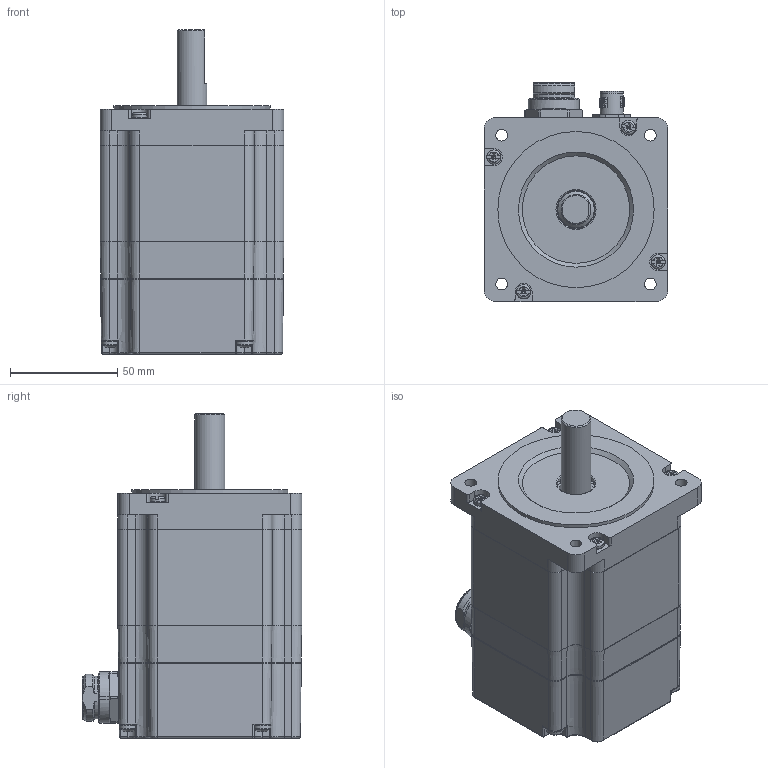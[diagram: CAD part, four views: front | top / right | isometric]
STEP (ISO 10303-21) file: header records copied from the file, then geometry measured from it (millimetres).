
FILE_DESCRIPTION (( 'STEP AP214' ), '1' );
FILE_NAME ('M86SH80B.STEP', '2022-01-31T09:21:18', ( '' ), ( '' ), 'SwSTEP 2.0', 'SolidWorks 2019', '' );
FILE_SCHEMA (( 'AUTOMOTIVE_DESIGN' ));
Length unit declared in the file: millimetre
Products named in the file (13): Terminal box 86 BAO; Vite serrapacco 80 BAO M4x72; 1523492; Cuscinetto posteriore 86 BAO; M86SH80B; Albero 86SH80 BAO; Guarnizione 86SH; Statore 86SH80 BAO; Cuscinetto anteriore 86 BAO; Vite M4 impronta a croce terminal box 86SH_DIN EN ISO 7045 - M3 x 4 - Z - 4N; Flangia P 86 BAO; Flangia  86 BAO; 7_8connector-1521452
Assembly tree (18 placements, depth 2):
  M86SH80B
    Flangia  86 BAO
    Albero 86SH80 BAO
    Cuscinetto anteriore 86 BAO
    Cuscinetto posteriore 86 BAO
    Flangia P 86 BAO
    Statore 86SH80 BAO
    Terminal box 86 BAO
    7_8connector-1521452
    Vite serrapacco 80 BAO M4x72  x4
    Vite M4 impronta a croce terminal box 86SH_DIN EN ISO 7045 - M3 x 4 - Z - 4N  x4
    Guarnizione 86SH
    1523492
Bounding box: 85.9 x 102.59 x 151.5 mm (x, y, z)
Volume: 438481.2 mm3; surface area: 167609.3 mm2
Topology: 31 solids, 31 shells, 2009 faces, 4792 edges, 2934 vertices
Faces by surface type: plane 789, cylinder 494, cone 475, bspline 171, torus 68, sphere 12
Full cylindrical faces by diameter (mm): 0.217 x1, 0.8 x8, 1.09 x8, 2 x5, 2.4 x5, 2.5 x1, 3 x5, 3.3 x12, 3.8 x4, 4 x177, 4.5 x24, 5.5 x4, 5.6 x4, 6.7 x4, 8 x5, 10.7 x1, 10.9 x1, 14 x1, 14.5 x1, 15 x2, 16.62 x1, 17 x2, 17.7 x1, 17.8 x1, 18 x1, 18.5 x2, 19.3 x2, 19.85 x2, 20.137 x2, 20.637 x1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
Entity records: 58370 total; most frequent: CARTESIAN_POINT 17066, DIRECTION 6361, ORIENTED_EDGE 6294, EDGE_CURVE 3147, AXIS2_PLACEMENT_3D 2311, VERTEX_POINT 2213, EDGE_LOOP 2046, VECTOR 1739
